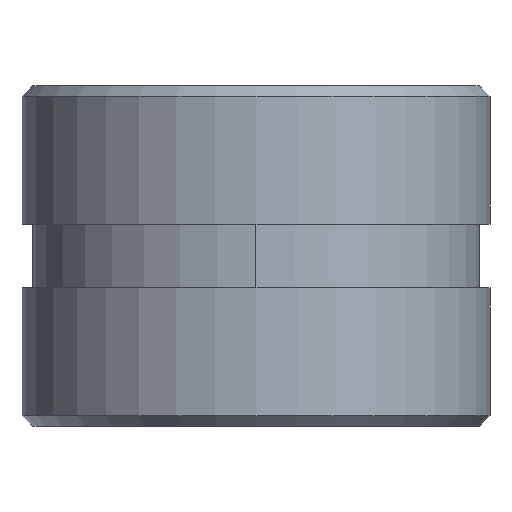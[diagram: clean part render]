
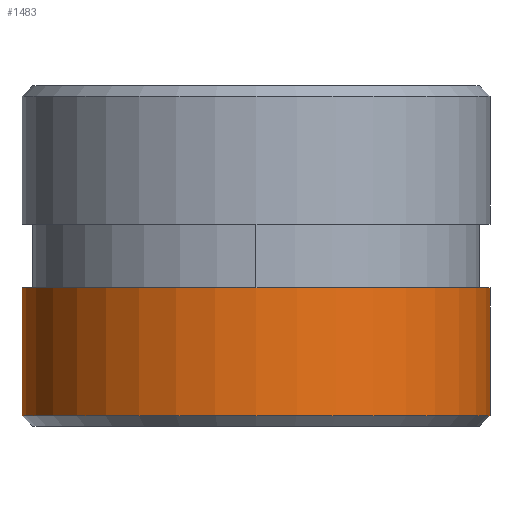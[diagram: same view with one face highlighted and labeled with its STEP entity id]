
A CAD part, front view. The second image highlights one B-rep face of the part: STEP entity #1483.
In plain terms, the highlighted cylindrical face has radius 22 mm (diameter 44 mm), a partial arc.
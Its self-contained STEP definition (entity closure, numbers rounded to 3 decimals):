
#1307=CARTESIAN_POINT('Axis2P3D Location',(0.,0.,-3.)) ;
#1311=CARTESIAN_POINT('Vertex',(-22.,0.,-3.)) ;
#1313=CARTESIAN_POINT('Vertex',(22.,0.,-3.)) ;
#1415=CARTESIAN_POINT('Axis2P3D Location',(0.,0.,0.)) ;
#1420=CARTESIAN_POINT('Line Origine',(22.,0.,0.)) ;
#1424=CARTESIAN_POINT('Vertex',(22.,0.,-15.)) ;
#1431=CARTESIAN_POINT('Vertex',(-22.,0.,-15.)) ;
#1434=CARTESIAN_POINT('Line Origine',(-22.,0.,0.)) ;
#1472=CARTESIAN_POINT('Axis2P3D Location',(0.,0.,-15.)) ;
#1422=VECTOR('Line Direction',#1421,1.) ;
#1436=VECTOR('Line Direction',#1435,1.) ;
#1308=DIRECTION('Axis2P3D Direction',(0.,0.,1.)) ;
#1416=DIRECTION('Axis2P3D Direction',(0.,0.,1.)) ;
#1417=DIRECTION('Axis2P3D XDirection',(1.,0.,0.)) ;
#1421=DIRECTION('Vector Direction',(0.,0.,1.)) ;
#1435=DIRECTION('Vector Direction',(0.,0.,1.)) ;
#1473=DIRECTION('Axis2P3D Direction',(0.,0.,1.)) ;
#1309=AXIS2_PLACEMENT_3D('Circle Axis2P3D',#1307,#1308,$) ;
#1418=AXIS2_PLACEMENT_3D('Cylinder Axis2P3D',#1415,#1416,#1417) ;
#1474=AXIS2_PLACEMENT_3D('Circle Axis2P3D',#1472,#1473,$) ;
#1423=LINE('Line',#1420,#1422) ;
#1437=LINE('Line',#1434,#1436) ;
#1310=CIRCLE('generated circle',#1309,22.) ;
#1475=CIRCLE('generated circle',#1474,22.) ;
#1419=CYLINDRICAL_SURFACE('generated cylinder',#1418,22.) ;
#1315=EDGE_CURVE('',#1312,#1314,#1310,.T.) ;
#1426=EDGE_CURVE('',#1425,#1314,#1423,.T.) ;
#1438=EDGE_CURVE('',#1432,#1312,#1437,.T.) ;
#1476=EDGE_CURVE('',#1432,#1425,#1475,.T.) ;
#1477=EDGE_LOOP('',(#1478,#1479,#1480,#1481)) ;
#1478=ORIENTED_EDGE('',*,*,#1438,.F.) ;
#1479=ORIENTED_EDGE('',*,*,#1476,.T.) ;
#1480=ORIENTED_EDGE('',*,*,#1426,.T.) ;
#1481=ORIENTED_EDGE('',*,*,#1315,.F.) ;
#1312=VERTEX_POINT('',#1311) ;
#1314=VERTEX_POINT('',#1313) ;
#1425=VERTEX_POINT('',#1424) ;
#1432=VERTEX_POINT('',#1431) ;
#1483=ADVANCED_FACE('PartBody',(#1482),#1419,.T.) ;
#1482=FACE_OUTER_BOUND('',#1477,.T.) ;
